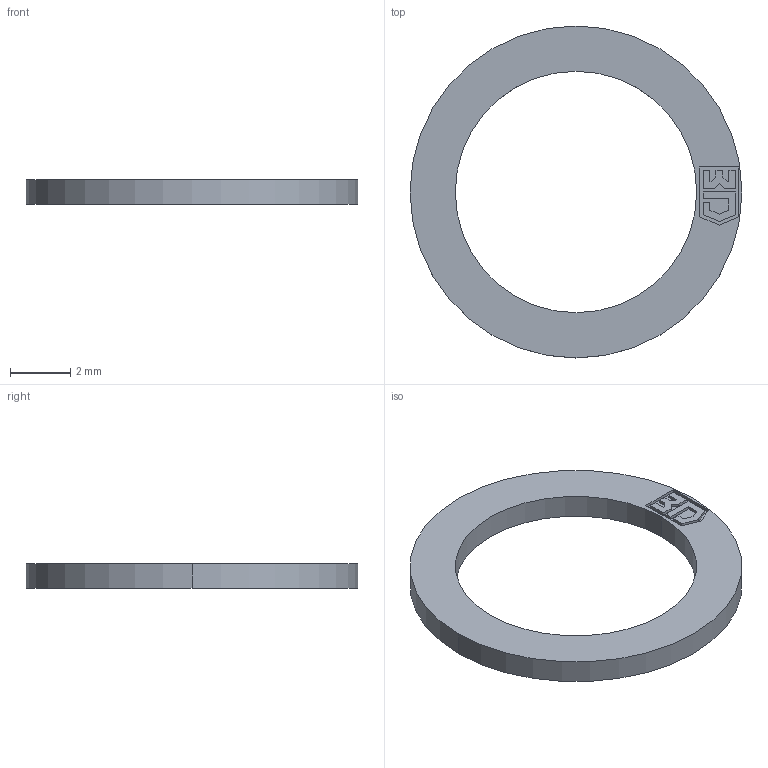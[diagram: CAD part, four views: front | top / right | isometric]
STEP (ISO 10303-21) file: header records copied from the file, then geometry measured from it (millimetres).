
FILE_DESCRIPTION (( 'STEP AP203' ), '1' );
FILE_NAME ('D 307-8.STEP', '2006-03-20T08:41:59', ( ' ' ), ( '' ), 'SwSTEP 2.0', 'SolidWorks 2005278', '' );
FILE_SCHEMA (( 'CONFIG_CONTROL_DESIGN' ));
Length unit declared in the file: millimetre
Products named in the file (1): D 307-8
Bounding box: 11 x 11 x 0.8 mm (x, y, z)
Volume: 35.7 mm3; surface area: 139 mm2
Topology: 1 solids, 1 shells, 43 faces, 114 edges, 76 vertices
Faces by surface type: plane 39, cylinder 4
Entity records: 1397 total; most frequent: CARTESIAN_POINT 234, ORIENTED_EDGE 228, DIRECTION 210, EDGE_CURVE 114, VECTOR 106, LINE 106, VERTEX_POINT 76, AXIS2_PLACEMENT_3D 52
